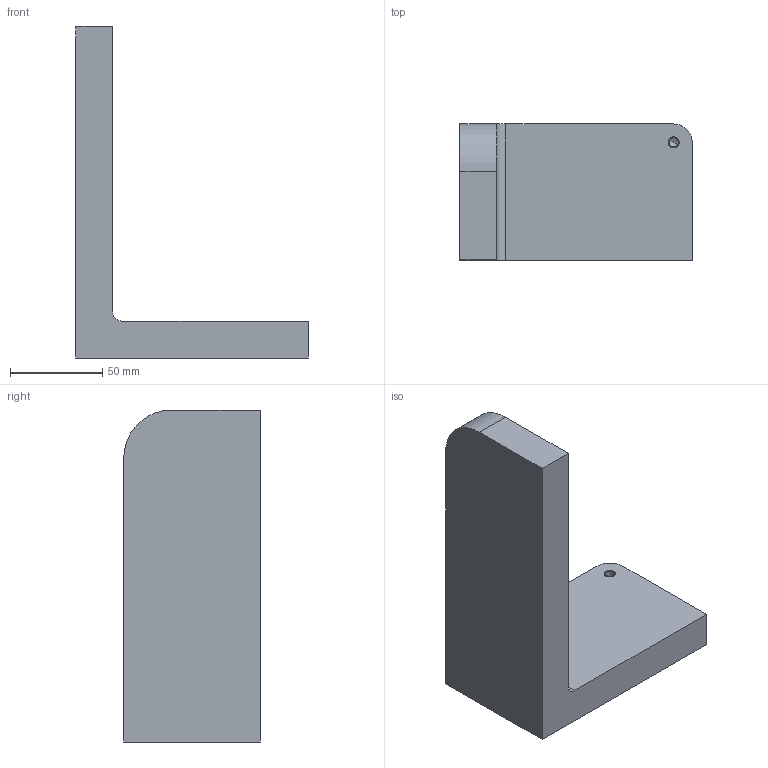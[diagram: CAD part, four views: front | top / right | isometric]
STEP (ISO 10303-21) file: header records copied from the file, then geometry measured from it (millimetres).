
FILE_DESCRIPTION(('CATIA V5 STEP Exchange'),'2;1');
FILE_NAME('C:\_Andres\UNIVERSIDAD\IQS\ASIGNATURAS\DAO\EXF\EXF-16172c\2inicio\Rabat_Riba_Ej01_v26.stp','2017-03-05T15:11:10+00:00',('none'),('none'),'CATIA Version 5-6 Release 2014 SP1 HF18','CATIA V5 STEP AP203','none');
FILE_SCHEMA(('CONFIG_CONTROL_DESIGN'));
Length unit declared in the file: millimetre
Products named in the file (1): Rabat_Riba_Ej01_v26
Bounding box: 126 x 74 x 180 mm (x, y, z)
Volume: 420033.6 mm3; surface area: 56414.1 mm2
Topology: 1 solids, 2 shells, 17 faces, 43 edges, 27 vertices
Faces by surface type: plane 8, cylinder 7, cone 2
Entity records: 513 total; most frequent: CARTESIAN_POINT 83, ORIENTED_EDGE 78, DIRECTION 69, EDGE_CURVE 41, AXIS2_PLACEMENT_3D 29, VECTOR 27, LINE 27, VERTEX_POINT 27
